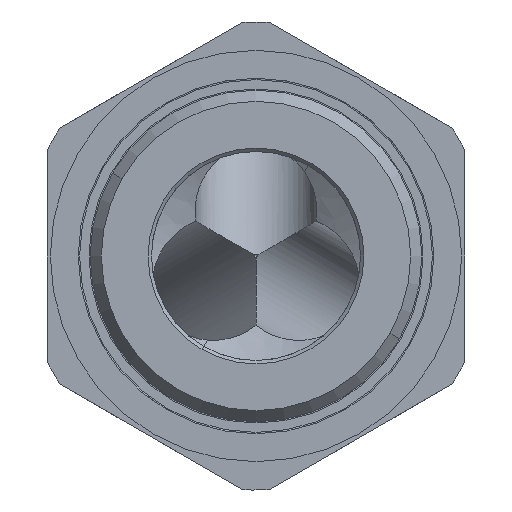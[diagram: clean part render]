
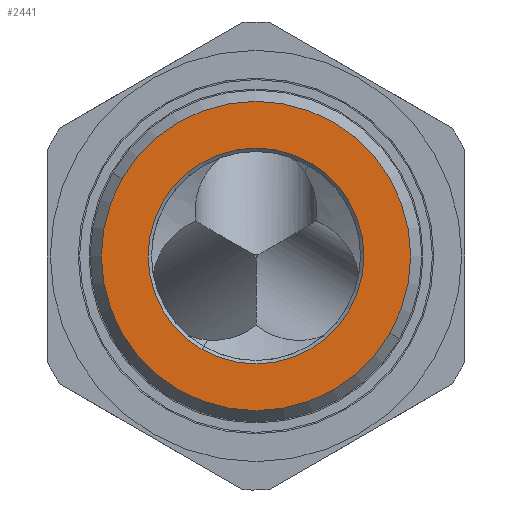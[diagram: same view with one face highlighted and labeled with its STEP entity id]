
A CAD part, front view. The second image highlights one B-rep face of the part: STEP entity #2441.
In plain terms, the highlighted planar face has unit normal (0, -1, 0) as drawn and (-1, 0, 0) by its records, which use the part's own axes.
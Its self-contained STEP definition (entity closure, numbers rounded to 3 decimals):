
#225=CARTESIAN_POINT('',(-36.5,14.95,0.0));
#226=VERTEX_POINT('',#225);
#233=CARTESIAN_POINT('',(-36.5,-29.45,0.));
#234=VERTEX_POINT('',#233);
#235=CARTESIAN_POINT('',(-36.5,-7.25,0.0));
#236=DIRECTION('',(1.0,0.0,0.0));
#237=DIRECTION('',(0.0,1.0,0.0));
#238=AXIS2_PLACEMENT_3D('',#235,#236,#237);
#239=CIRCLE('',#238,22.2);
#240=EDGE_CURVE('',#226,#234,#239,.T.);
#1794=CARTESIAN_POINT('',(-36.5,-7.25,-15.5));
#1795=VERTEX_POINT('',#1794);
#1809=CARTESIAN_POINT('',(-36.5,-7.25,15.5));
#1810=VERTEX_POINT('',#1809);
#1817=CARTESIAN_POINT('',(-36.5,-7.25,0.0));
#1818=DIRECTION('',(-1.0,0.0,0.0));
#1819=DIRECTION('',(0.0,0.0,-1.0));
#1820=AXIS2_PLACEMENT_3D('',#1817,#1818,#1819);
#1821=CIRCLE('',#1820,15.5);
#1822=EDGE_CURVE('',#1810,#1795,#1821,.T.);
#2356=CARTESIAN_POINT('',(-36.5,-7.25,0.0));
#2357=DIRECTION('',(-1.0,0.0,0.0));
#2358=DIRECTION('',(0.0,0.0,-1.0));
#2359=AXIS2_PLACEMENT_3D('',#2356,#2357,#2358);
#2360=CIRCLE('',#2359,15.5);
#2361=EDGE_CURVE('',#1795,#1810,#2360,.T.);
#2422=CARTESIAN_POINT('',(-36.5,5.925,0.0));
#2423=DIRECTION('',(-1.0,0.0,0.0));
#2424=DIRECTION('',(0.0,0.0,1.0));
#2425=AXIS2_PLACEMENT_3D('',#2422,#2423,#2424);
#2426=PLANE('',#2425);
#2427=ORIENTED_EDGE('',*,*,#240,.F.);
#2428=CARTESIAN_POINT('',(-36.5,-7.25,0.0));
#2429=DIRECTION('',(1.0,0.0,0.0));
#2430=DIRECTION('',(0.0,1.0,0.0));
#2431=AXIS2_PLACEMENT_3D('',#2428,#2429,#2430);
#2432=CIRCLE('',#2431,22.2);
#2433=EDGE_CURVE('',#234,#226,#2432,.T.);
#2434=ORIENTED_EDGE('',*,*,#2433,.F.);
#2435=EDGE_LOOP('',(#2427,#2434));
#2436=FACE_OUTER_BOUND('',#2435,.T.);
#2437=ORIENTED_EDGE('',*,*,#1822,.F.);
#2438=ORIENTED_EDGE('',*,*,#2361,.F.);
#2439=EDGE_LOOP('',(#2437,#2438));
#2440=FACE_BOUND('',#2439,.T.);
#2441=ADVANCED_FACE('',(#2436,#2440),#2426,.T.);
